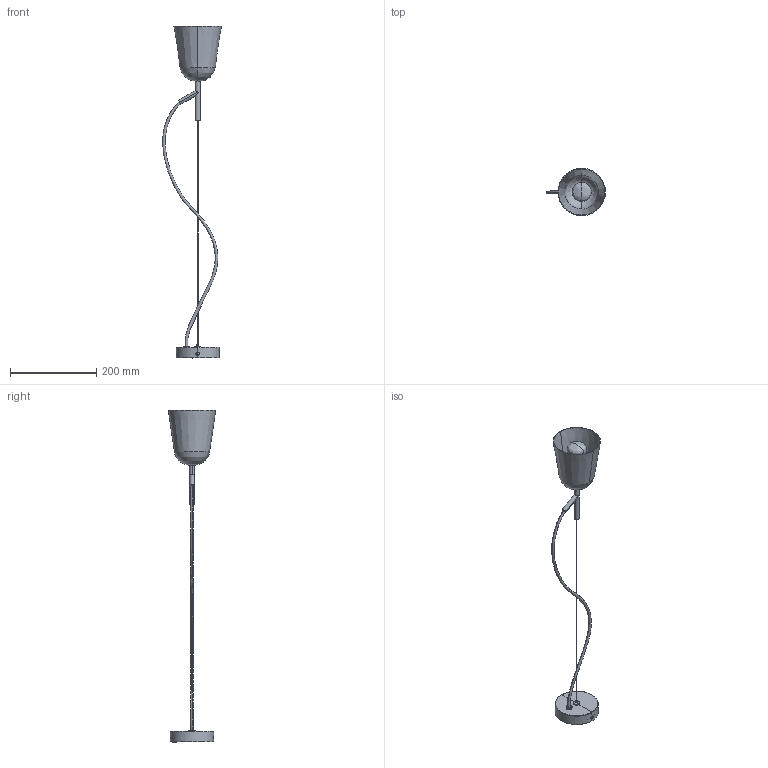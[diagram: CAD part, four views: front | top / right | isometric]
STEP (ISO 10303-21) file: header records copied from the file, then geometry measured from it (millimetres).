
FILE_DESCRIPTION(/* description */ (''),/* implementation_level */ '2;1');
FILE_NAME(/* name */ '28263.step',/* time_stamp */ '2024-06-10T15:18:13+02:00',/* author */ ('RenataManzini'),/* organization */ (''),/* preprocessor_version */ 'ST-DEVELOPER v20',/* originating_system */ 'AutoCAD Mechanical',/* authorisation */ '');
FILE_SCHEMA (('AUTOMOTIVE_DESIGN { 1 0 10303 214 3 1 1 }'));
Length unit declared in the file: millimetre
Products named in the file (4): Product; studio_soporte - soporte-640663-_3D_; studio_pantalla_110 - Lamp Holder-647519-_3D_; FamilyGeomCombination_645162-_3D_
Assembly tree (3 placements, depth 2):
  Product
    studio_soporte - soporte-640663-_3D_
    studio_pantalla_110 - Lamp Holder-647519-_3D_
    FamilyGeomCombination_645162-_3D_
Bounding box: 136.37 x 110.05 x 769.77 mm (x, y, z)
Volume: 208939.7 mm3; surface area: 147049.4 mm2
Topology: 8 solids, 9 shells, 126 faces, 279 edges, 164 vertices
Faces by surface type: plane 50, cylinder 48, cone 12, bspline 12, torus 4
Entity records: 6543 total; most frequent: CARTESIAN_POINT 3734, DIRECTION 574, ORIENTED_EDGE 544, EDGE_CURVE 274, AXIS2_PLACEMENT_3D 226, VERTEX_POINT 159, EDGE_LOOP 139, FACE_OUTER_BOUND 126
